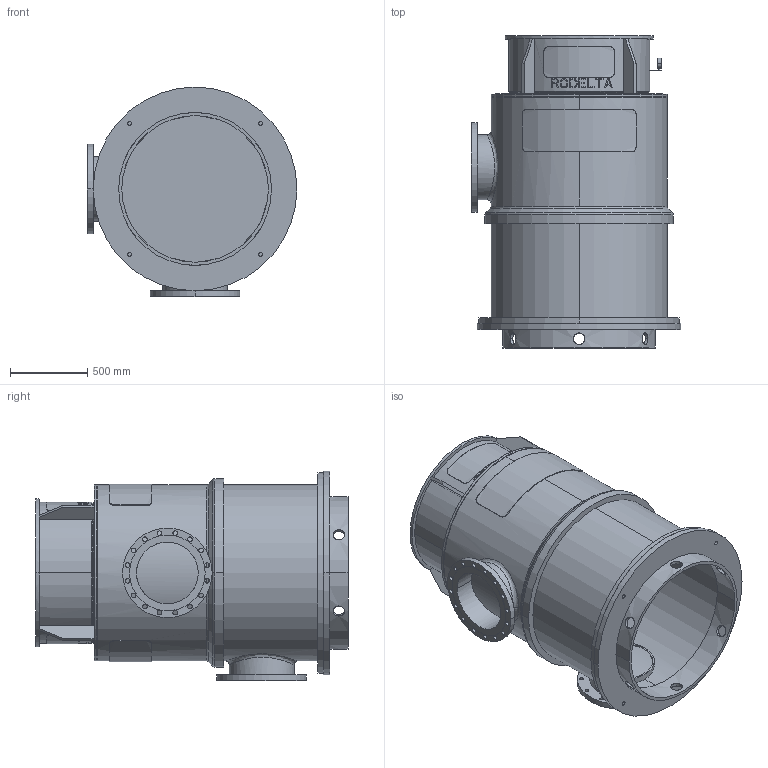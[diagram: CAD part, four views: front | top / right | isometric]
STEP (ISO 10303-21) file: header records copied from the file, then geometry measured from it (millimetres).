
FILE_DESCRIPTION((''),'2;1');
FILE_NAME('LS16_1TR_0GR_UPTO_90KW','2023-08-24T',('Lyritlocal'),(''),'PRO/ENGINEER BY PARAMETRIC TECHNOLOGY CORPORATION, 2016360','PRO/ENGINEER BY PARAMETRIC TECHNOLOGY CORPORATION, 2016360','');
FILE_SCHEMA(('CONFIG_CONTROL_DESIGN'));
Length unit declared in the file: millimetre
Products named in the file (1): LS16_1TR_0GR_UPTO_90KW
Bounding box: 1360 x 2022.5 x 1360 mm (x, y, z)
Volume: 170771930 mm3; surface area: 20216193.7 mm2
Topology: 3 solids, 3 shells, 564 faces, 1501 edges, 986 vertices
Faces by surface type: plane 346, cylinder 196, cone 14, bspline 4, torus 4
Entity records: 18937 total; most frequent: CARTESIAN_POINT 5097, ORIENTED_EDGE 3002, DIRECTION 2649, EDGE_CURVE 1501, AXIS2_PLACEMENT_3D 996, VERTEX_POINT 986, EDGE_LOOP 687, VECTOR 657
